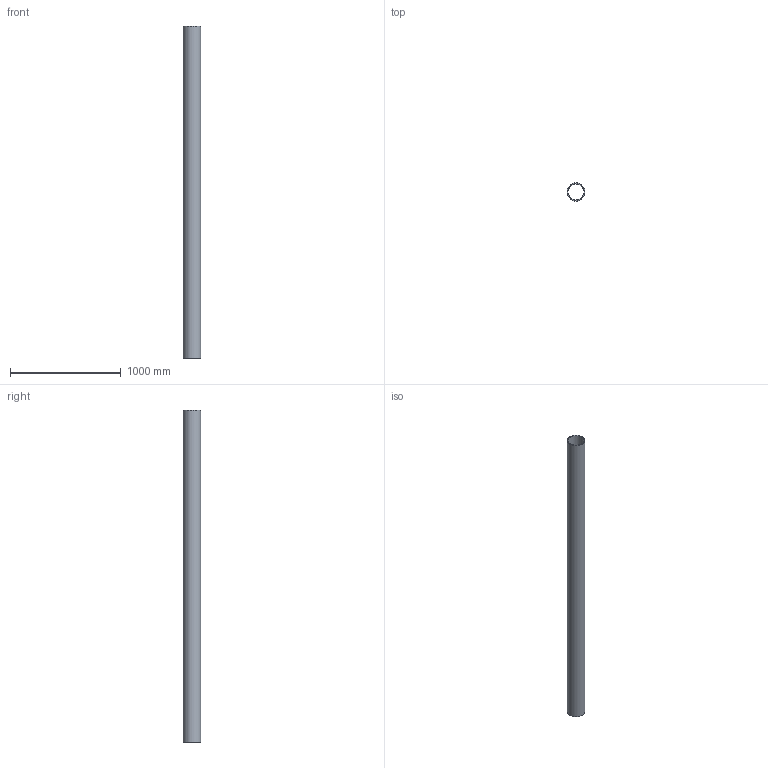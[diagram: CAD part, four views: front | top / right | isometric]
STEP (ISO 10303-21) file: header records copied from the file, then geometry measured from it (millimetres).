
FILE_DESCRIPTION(/* description */ (''),/* implementation_level */ '2;1');
FILE_NAME(/* name */ 'C:\Geberit-Teile\Export 2019\315.001.14.1\stp\315001.stp',/* time_stamp */ '2019-06-06T10:44:21+02:00',/* author */ ('JANAN'),/* organization */ (''),/* preprocessor_version */ 'ST-DEVELOPER v16.13',/* originating_system */ 'Autodesk Inventor 2018',/* authorisation */ '');
FILE_SCHEMA (('AUTOMOTIVE_DESIGN { 1 0 10303 214 3 1 1 }'));
Length unit declared in the file: millimetre
Products named in the file (1): Rohr PE-S2 d160x7 L300
Bounding box: 160 x 160 x 3000 mm (x, y, z)
Volume: 10093937.2 mm3; surface area: 2890711.3 mm2
Topology: 1 solids, 1 shells, 4 faces, 6 edges, 4 vertices
Faces by surface type: cylinder 2, plane 2
Full cylindrical faces by diameter (mm): 146 x1, 160 x1
Entity records: 131 total; most frequent: DIRECTION 18, CARTESIAN_POINT 13, AXIS2_PLACEMENT_3D 9, EDGE_LOOP 8, ORIENTED_EDGE 8, STYLED_ITEM 5, FACE_BOUND 4, FACE_OUTER_BOUND 4
